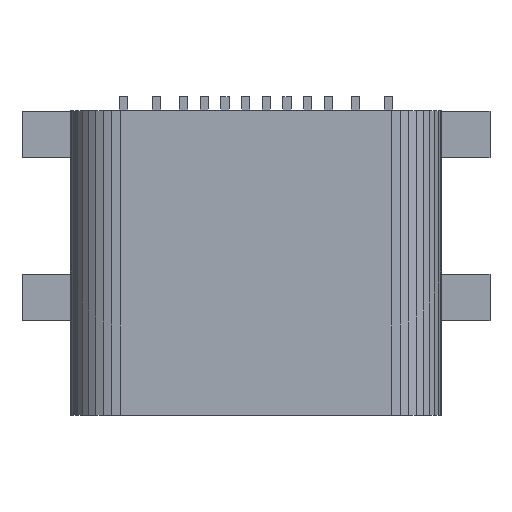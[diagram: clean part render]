
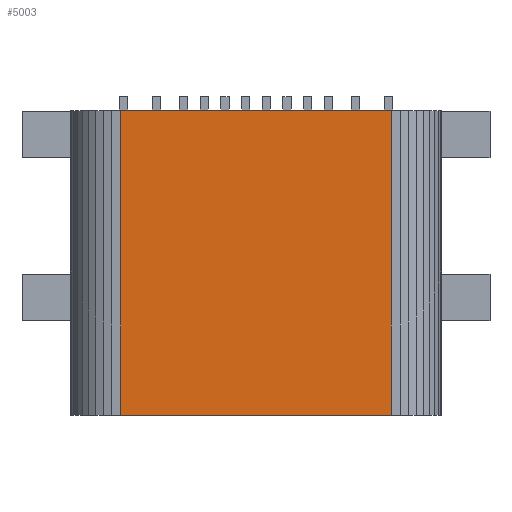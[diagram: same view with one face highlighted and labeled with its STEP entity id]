
A CAD part, top view. The second image highlights one B-rep face of the part: STEP entity #5003.
In plain terms, the highlighted planar face has unit normal (0, 0, 1).
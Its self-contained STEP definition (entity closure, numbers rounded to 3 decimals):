
#72 = PLANE('',#73);
#73 = AXIS2_PLACEMENT_3D('',#74,#75,#76);
#74 = CARTESIAN_POINT('',(0.,3.675,1.68));
#75 = DIRECTION('',(-0.,-1.,-0.));
#76 = DIRECTION('',(0.,0.,-1.));
#126 = PLANE('',#127);
#127 = AXIS2_PLACEMENT_3D('',#128,#129,#130);
#128 = CARTESIAN_POINT('',(0.,-3.675,1.68));
#129 = DIRECTION('',(-0.,-1.,-0.));
#130 = DIRECTION('',(0.,0.,-1.));
#739 = VERTEX_POINT('',#740);
#740 = CARTESIAN_POINT('',(3.27,-3.675,3.26));
#754 = PLANE('',#755);
#755 = AXIS2_PLACEMENT_3D('',#756,#757,#758);
#756 = CARTESIAN_POINT('',(3.478,-3.675,3.242));
#757 = DIRECTION('',(0.087,-0.,0.996));
#758 = DIRECTION('',(-0.996,0.,0.087));
#766 = EDGE_CURVE('',#739,#767,#769,.T.);
#767 = VERTEX_POINT('',#768);
#768 = CARTESIAN_POINT('',(-3.27,-3.675,3.26));
#769 = SURFACE_CURVE('',#770,(#774,#781),.PCURVE_S1.);
#770 = LINE('',#771,#772);
#771 = CARTESIAN_POINT('',(3.27,-3.675,3.26));
#772 = VECTOR('',#773,1.);
#773 = DIRECTION('',(-1.,0.,0.));
#774 = PCURVE('',#126,#775);
#775 = DEFINITIONAL_REPRESENTATION('',(#776),#780);
#776 = LINE('',#777,#778);
#777 = CARTESIAN_POINT('',(-1.58,3.27));
#778 = VECTOR('',#779,1.);
#779 = DIRECTION('',(0.,-1.));
#780 = ( GEOMETRIC_REPRESENTATION_CONTEXT(2) 
PARAMETRIC_REPRESENTATION_CONTEXT() REPRESENTATION_CONTEXT('2D SPACE',''
  ) );
#781 = PCURVE('',#782,#787);
#782 = PLANE('',#783);
#783 = AXIS2_PLACEMENT_3D('',#784,#785,#786);
#784 = CARTESIAN_POINT('',(3.27,-3.675,3.26));
#785 = DIRECTION('',(0.,-0.,1.));
#786 = DIRECTION('',(-1.,0.,0.));
#787 = DEFINITIONAL_REPRESENTATION('',(#788),#792);
#788 = LINE('',#789,#790);
#789 = CARTESIAN_POINT('',(0.,0.));
#790 = VECTOR('',#791,1.);
#791 = DIRECTION('',(1.,0.));
#792 = ( GEOMETRIC_REPRESENTATION_CONTEXT(2) 
PARAMETRIC_REPRESENTATION_CONTEXT() REPRESENTATION_CONTEXT('2D SPACE',''
  ) );
#810 = PLANE('',#811);
#811 = AXIS2_PLACEMENT_3D('',#812,#813,#814);
#812 = CARTESIAN_POINT('',(-3.27,-3.675,3.26));
#813 = DIRECTION('',(-0.087,0.,0.996));
#814 = DIRECTION('',(-0.996,0.,-0.087));
#2736 = VERTEX_POINT('',#2737);
#2737 = CARTESIAN_POINT('',(3.27,3.675,3.26));
#2758 = EDGE_CURVE('',#2736,#2759,#2761,.T.);
#2759 = VERTEX_POINT('',#2760);
#2760 = CARTESIAN_POINT('',(-3.27,3.675,3.26));
#2761 = SURFACE_CURVE('',#2762,(#2766,#2773),.PCURVE_S1.);
#2762 = LINE('',#2763,#2764);
#2763 = CARTESIAN_POINT('',(3.27,3.675,3.26));
#2764 = VECTOR('',#2765,1.);
#2765 = DIRECTION('',(-1.,0.,0.));
#2766 = PCURVE('',#72,#2767);
#2767 = DEFINITIONAL_REPRESENTATION('',(#2768),#2772);
#2768 = LINE('',#2769,#2770);
#2769 = CARTESIAN_POINT('',(-1.58,3.27));
#2770 = VECTOR('',#2771,1.);
#2771 = DIRECTION('',(0.,-1.));
#2772 = ( GEOMETRIC_REPRESENTATION_CONTEXT(2) 
PARAMETRIC_REPRESENTATION_CONTEXT() REPRESENTATION_CONTEXT('2D SPACE',''
  ) );
#2773 = PCURVE('',#782,#2774);
#2774 = DEFINITIONAL_REPRESENTATION('',(#2775),#2779);
#2775 = LINE('',#2776,#2777);
#2776 = CARTESIAN_POINT('',(0.,-7.35));
#2777 = VECTOR('',#2778,1.);
#2778 = DIRECTION('',(1.,0.));
#2779 = ( GEOMETRIC_REPRESENTATION_CONTEXT(2) 
PARAMETRIC_REPRESENTATION_CONTEXT() REPRESENTATION_CONTEXT('2D SPACE',''
  ) );
#4955 = EDGE_CURVE('',#739,#2736,#4956,.T.);
#4956 = SURFACE_CURVE('',#4957,(#4961,#4968),.PCURVE_S1.);
#4957 = LINE('',#4958,#4959);
#4958 = CARTESIAN_POINT('',(3.27,-3.675,3.26));
#4959 = VECTOR('',#4960,1.);
#4960 = DIRECTION('',(0.,1.,0.));
#4961 = PCURVE('',#754,#4962);
#4962 = DEFINITIONAL_REPRESENTATION('',(#4963),#4967);
#4963 = LINE('',#4964,#4965);
#4964 = CARTESIAN_POINT('',(0.209,0.));
#4965 = VECTOR('',#4966,1.);
#4966 = DIRECTION('',(0.,-1.));
#4967 = ( GEOMETRIC_REPRESENTATION_CONTEXT(2) 
PARAMETRIC_REPRESENTATION_CONTEXT() REPRESENTATION_CONTEXT('2D SPACE',''
  ) );
#4968 = PCURVE('',#782,#4969);
#4969 = DEFINITIONAL_REPRESENTATION('',(#4970),#4974);
#4970 = LINE('',#4971,#4972);
#4971 = CARTESIAN_POINT('',(0.,0.));
#4972 = VECTOR('',#4973,1.);
#4973 = DIRECTION('',(0.,-1.));
#4974 = ( GEOMETRIC_REPRESENTATION_CONTEXT(2) 
PARAMETRIC_REPRESENTATION_CONTEXT() REPRESENTATION_CONTEXT('2D SPACE',''
  ) );
#5003 = ADVANCED_FACE('',(#5004),#782,.T.);
#5004 = FACE_BOUND('',#5005,.T.);
#5005 = EDGE_LOOP('',(#5006,#5007,#5008,#5029));
#5006 = ORIENTED_EDGE('',*,*,#4955,.T.);
#5007 = ORIENTED_EDGE('',*,*,#2758,.T.);
#5008 = ORIENTED_EDGE('',*,*,#5009,.F.);
#5009 = EDGE_CURVE('',#767,#2759,#5010,.T.);
#5010 = SURFACE_CURVE('',#5011,(#5015,#5022),.PCURVE_S1.);
#5011 = LINE('',#5012,#5013);
#5012 = CARTESIAN_POINT('',(-3.27,-3.675,3.26));
#5013 = VECTOR('',#5014,1.);
#5014 = DIRECTION('',(0.,1.,0.));
#5015 = PCURVE('',#782,#5016);
#5016 = DEFINITIONAL_REPRESENTATION('',(#5017),#5021);
#5017 = LINE('',#5018,#5019);
#5018 = CARTESIAN_POINT('',(6.54,0.));
#5019 = VECTOR('',#5020,1.);
#5020 = DIRECTION('',(0.,-1.));
#5021 = ( GEOMETRIC_REPRESENTATION_CONTEXT(2) 
PARAMETRIC_REPRESENTATION_CONTEXT() REPRESENTATION_CONTEXT('2D SPACE',''
  ) );
#5022 = PCURVE('',#810,#5023);
#5023 = DEFINITIONAL_REPRESENTATION('',(#5024),#5028);
#5024 = LINE('',#5025,#5026);
#5025 = CARTESIAN_POINT('',(0.,0.));
#5026 = VECTOR('',#5027,1.);
#5027 = DIRECTION('',(0.,-1.));
#5028 = ( GEOMETRIC_REPRESENTATION_CONTEXT(2) 
PARAMETRIC_REPRESENTATION_CONTEXT() REPRESENTATION_CONTEXT('2D SPACE',''
  ) );
#5029 = ORIENTED_EDGE('',*,*,#766,.F.);
